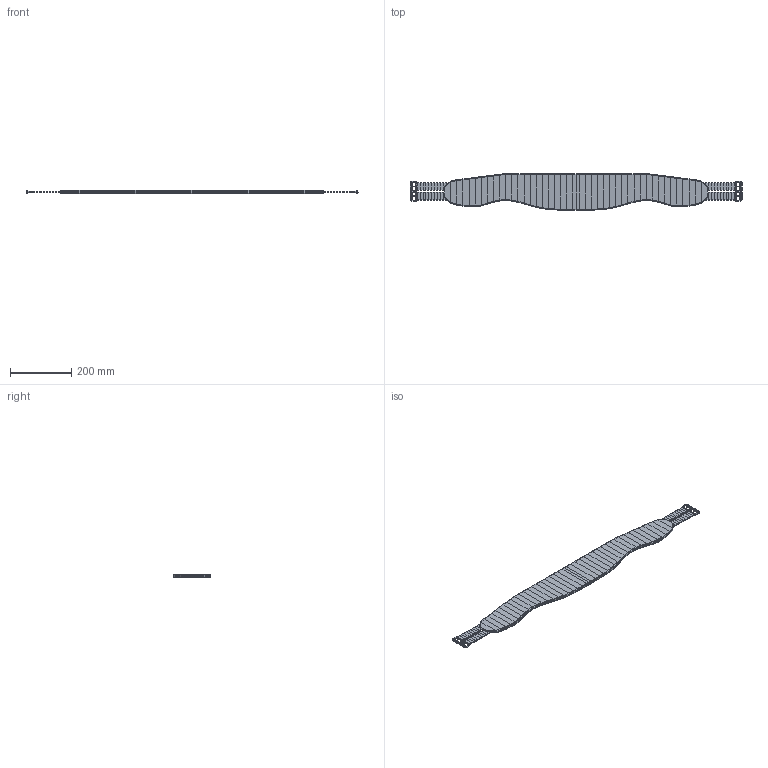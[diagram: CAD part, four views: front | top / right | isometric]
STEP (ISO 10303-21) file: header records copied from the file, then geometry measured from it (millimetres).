
FILE_DESCRIPTION(('AVO Performance Horse - montaje de la cincha (B-rep poliedrico)'),'2;1');
FILE_NAME('Cincha_Horze','2026-11-15T12:00:00',('AVO Performance Horse'),('AVO Performance Horse'),'avo_cad.py','avo_cad.py (numpy)','');
FILE_SCHEMA(('AUTOMOTIVE_DESIGN { 1 0 10303 214 1 1 1 1 }'));
Length unit declared in the file: millimetre
Products named in the file (1): Cincha_Horze
Bounding box: 1087 x 119.95 x 10 mm (x, y, z)
Volume: 883238.5 mm3; surface area: 218243 mm2
Topology: 17 solids, 17 shells, 2666 faces, 4656 edges, 2016 vertices
Faces by surface type: plane 2666
Entity records: 44622 total; most frequent: ORIENTED_EDGE 9312, VECTOR 4656, LINE 4656, EDGE_CURVE 4656, DIRECTION 3795, AXIS2_PLACEMENT_3D 2667, EDGE_LOOP 2666, FACE_OUTER_BOUND 2666
